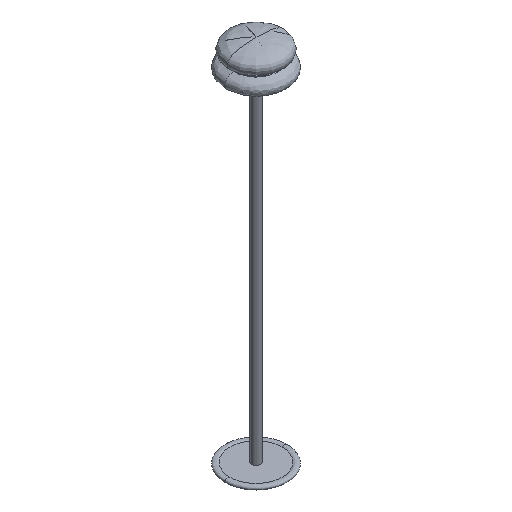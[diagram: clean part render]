
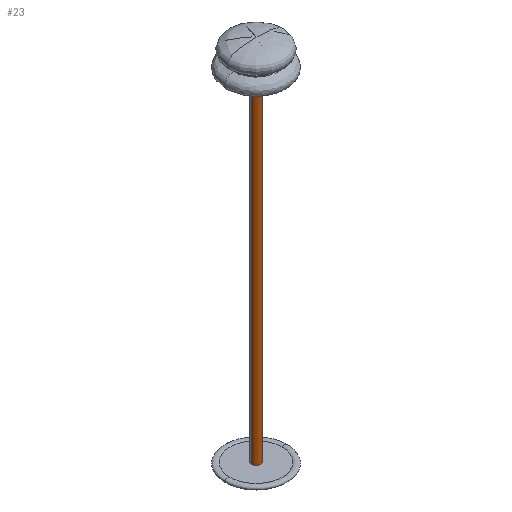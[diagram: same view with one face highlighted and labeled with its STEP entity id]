
A CAD part, isometric view. The second image highlights one B-rep face of the part: STEP entity #23.
In plain terms, the highlighted cylindrical face has radius 15 mm (diameter 30 mm), a partial arc.
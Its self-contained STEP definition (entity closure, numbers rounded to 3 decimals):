
#23=ADVANCED_FACE('',(#33),#147,.T.);
#33=FACE_OUTER_BOUND('',#45,.T.);
#45=EDGE_LOOP('',(#74,#75,#76,#77));
#74=ORIENTED_EDGE('',*,*,#96,.F.);
#75=ORIENTED_EDGE('',*,*,#93,.F.);
#76=ORIENTED_EDGE('',*,*,#97,.F.);
#77=ORIENTED_EDGE('',*,*,#91,.F.);
#91=EDGE_CURVE('',#135,#130,#102,.T.);
#93=EDGE_CURVE('',#131,#136,#103,.T.);
#96=EDGE_CURVE('',#136,#135,#110,.T.);
#97=EDGE_CURVE('',#130,#131,#111,.T.);
#102=(
BOUNDED_CURVE()
B_SPLINE_CURVE(1,(#759,#760),.UNSPECIFIED.,.F.,.F.)
B_SPLINE_CURVE_WITH_KNOTS((2,2),(0.,1160.927),.UNSPECIFIED.)
CURVE()
GEOMETRIC_REPRESENTATION_ITEM()
RATIONAL_B_SPLINE_CURVE((1.,1.))
REPRESENTATION_ITEM('')
);
#103=(
BOUNDED_CURVE()
B_SPLINE_CURVE(1,(#764,#765),.UNSPECIFIED.,.F.,.F.)
B_SPLINE_CURVE_WITH_KNOTS((2,2),(0.,1160.927),.UNSPECIFIED.)
CURVE()
GEOMETRIC_REPRESENTATION_ITEM()
RATIONAL_B_SPLINE_CURVE((1.,1.))
REPRESENTATION_ITEM('')
);
#110=TRIMMED_CURVE($,#116,(#773),(#774),.T.,.CARTESIAN.);
#111=TRIMMED_CURVE($,#117,(#776),(#777),.T.,.CARTESIAN.);
#116=CIRCLE('',#246,15.);
#117=CIRCLE('',#247,15.);
#130=VERTEX_POINT('',#642);
#131=VERTEX_POINT('',#643);
#135=VERTEX_POINT('',#647);
#136=VERTEX_POINT('',#648);
#147=CYLINDRICAL_SURFACE('',#241,15.);
#241=AXIS2_PLACEMENT_3D('',#447,#256,$);
#246=AXIS2_PLACEMENT_3D($,#772,#265,#266);
#247=AXIS2_PLACEMENT_3D($,#775,#267,#268);
#256=DIRECTION('',(0.,0.,1.));
#265=DIRECTION('',(0.,0.,-1.));
#266=DIRECTION('',(1.,0.,0.));
#267=DIRECTION('',(0.,0.,1.));
#268=DIRECTION('',(-1.,0.,0.));
#447=CARTESIAN_POINT('',(0.,0.,580.463));
#642=CARTESIAN_POINT('',(-15.,0.,1160.927));
#643=CARTESIAN_POINT('',(15.,0.,1160.927));
#647=CARTESIAN_POINT('',(-15.,0.,0.));
#648=CARTESIAN_POINT('',(15.,0.,0.));
#759=CARTESIAN_POINT('',(-15.,0.,0.));
#760=CARTESIAN_POINT('',(-15.,0.,1160.927));
#764=CARTESIAN_POINT('',(15.,0.,1160.927));
#765=CARTESIAN_POINT('',(15.,0.,0.));
#772=CARTESIAN_POINT('',(0.,0.,0.));
#773=CARTESIAN_POINT('',(15.,0.,0.));
#774=CARTESIAN_POINT('',(-15.,0.,0.));
#775=CARTESIAN_POINT('',(0.,0.,1160.927));
#776=CARTESIAN_POINT('',(-15.,0.,1160.927));
#777=CARTESIAN_POINT('',(15.,0.,1160.927));
